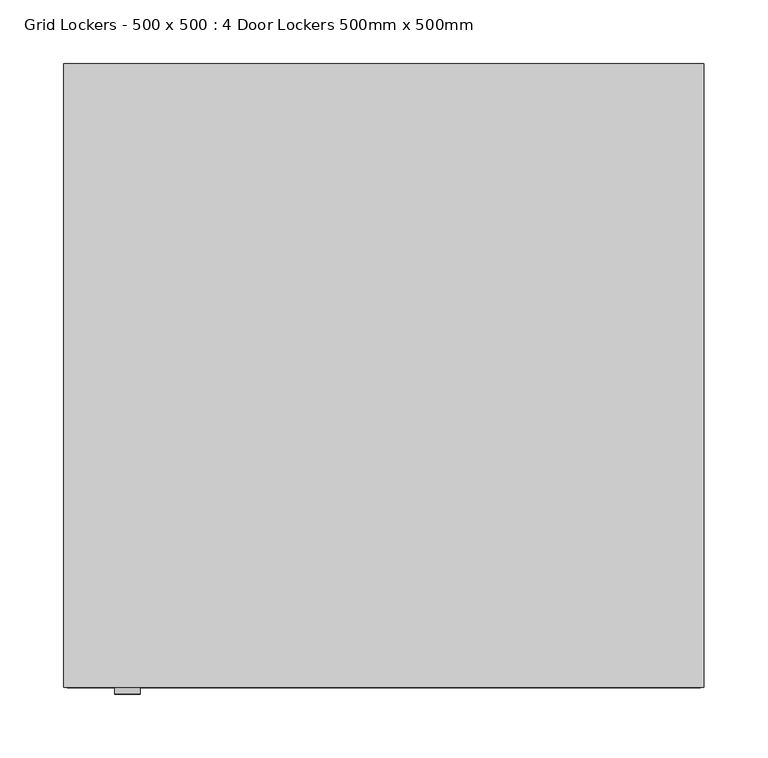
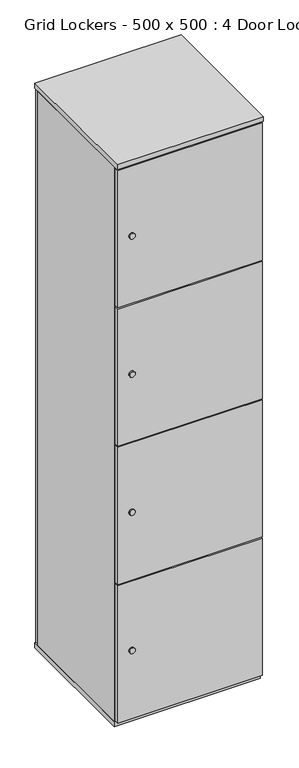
"""IFC4 building model written with IfcOpenShell, lengths in millimetres: furniture geometry, Grid Lockers - 500 x 500 : 4 Door Lockers 500mm x 500mm."""

from ifc_helpers import new_model, si_unit, point, frame, frame_2d, origin, origin_with_axes, place, context, project, spatial, polyline, circle_curve, trimmed, segment, composite_curve, outline, extrude, source, transform, mapped, element, save


def grid_lockers_500_x_500_4_door_lockers_500mm_x_500mm_19c436bb(model_context):
    return source(origin(), model_context, "Body", "SweptSolid", [
        extrude(outline(composite_curve([segment(trimmed(circle_curve(frame_2d((1790.8469219, 50.0)), 10.0), [point((1790.8469219, 40.0))], [point((1790.8469219, 60.0))], False, "CARTESIAN"), True, "CONTINUOUS"), segment(trimmed(circle_curve(frame_2d((1790.8469219, 50.0)), 10.0), [point((1790.8469219, 60.0))], [point((1790.8469219, 40.0))], False, "CARTESIAN"), True, "CONTINUOUS")], self_intersect=False)), frame((0.0, -495.0, 0.0), z_axis=(0.0, 1.0, 0.0), x_axis=(0.0, 0.0, 1.0)), (0.0, 0.0, 1.0), 5.0),
        extrude(outline(composite_curve([segment(trimmed(circle_curve(frame_2d((1287.897948, 50.0)), 10.0), [point((1287.897948, 40.0))], [point((1287.897948, 60.0))], False, "CARTESIAN"), True, "CONTINUOUS"), segment(trimmed(circle_curve(frame_2d((1287.897948, 50.0)), 10.0), [point((1287.897948, 60.0))], [point((1287.897948, 40.0))], False, "CARTESIAN"), True, "CONTINUOUS")], self_intersect=False)), frame((0.0, -495.0, 0.0), z_axis=(0.0, 1.0, 0.0), x_axis=(0.0, 0.0, 1.0)), (0.0, 0.0, 1.0), 5.0),
        extrude(outline(polyline([(499.9888449, -490.0), (2.9888449, -490.0), (2.9888449, -472.0), (499.9888449, -472.0), (499.9888449, -490.0)])), frame((0.0, 0.0, 1543.2769672), z_axis=(0.0, 0.0, 1.0), x_axis=(1.0, 0.0, 0.0)), (0.0, 0.0, 1.0), 500.0),
        extrude(outline(polyline([(499.9925633, -490.0), (2.9925633, -490.0), (2.9925633, -472.0), (499.9925633, -472.0), (499.9925633, -490.0)])), frame((0.0, 0.0, 1039.5179781), z_axis=(0.0, 0.0, 1.0), x_axis=(1.0, 0.0, 0.0)), (0.0, 0.0, 1.0), 500.0),
        extrude(outline(composite_curve([segment(trimmed(circle_curve(frame_2d((784.948974, 50.0)), 10.0), [point((784.948974, 40.0))], [point((784.948974, 60.0))], False, "CARTESIAN"), True, "CONTINUOUS"), segment(trimmed(circle_curve(frame_2d((784.948974, 50.0)), 10.0), [point((784.948974, 60.0))], [point((784.948974, 40.0))], False, "CARTESIAN"), True, "CONTINUOUS")], self_intersect=False)), frame((0.0, -495.0, 0.0), z_axis=(0.0, 1.0, 0.0), x_axis=(0.0, 0.0, 1.0)), (0.0, 0.0, 1.0), 5.0),
        extrude(outline(composite_curve([segment(trimmed(circle_curve(frame_2d((282.0, 50.0)), 10.0), [point((282.0, 40.0))], [point((282.0, 60.0))], False, "CARTESIAN"), True, "CONTINUOUS"), segment(trimmed(circle_curve(frame_2d((282.0, 50.0)), 10.0), [point((282.0, 60.0))], [point((282.0, 40.0))], False, "CARTESIAN"), True, "CONTINUOUS")], self_intersect=False)), frame((0.0, -495.0, 0.0), z_axis=(0.0, 1.0, 0.0), x_axis=(0.0, 0.0, 1.0)), (0.0, 0.0, 1.0), 5.0),
        extrude(outline(polyline([(499.9962816, -490.0), (2.9962816, -490.0), (2.9962816, -472.0), (499.9962816, -472.0), (499.9962816, -490.0)])), frame((0.0, 0.0, 535.7589891), z_axis=(0.0, 0.0, 1.0), x_axis=(1.0, 0.0, 0.0)), (0.0, 0.0, 1.0), 500.0),
        extrude(outline(composite_curve([segment(trimmed(circle_curve(frame_2d((450.0, -50.0)), 15.0), [point((435.0, -50.0))], [point((465.0, -50.0))], False, "CARTESIAN"), True, "CONTINUOUS"), segment(trimmed(circle_curve(frame_2d((450.0, -50.0)), 15.0), [point((465.0, -50.0))], [point((435.0, -50.0))], False, "CARTESIAN"), True, "CONTINUOUS")], self_intersect=False)), origin_with_axes(), (0.0, 0.0, 1.0), 10.0),
        extrude(outline(composite_curve([segment(trimmed(circle_curve(frame_2d((50.0, -50.0)), 15.0), [point((35.0, -50.0))], [point((65.0, -50.0))], False, "CARTESIAN"), True, "CONTINUOUS"), segment(trimmed(circle_curve(frame_2d((50.0, -50.0)), 15.0), [point((65.0, -50.0))], [point((35.0, -50.0))], False, "CARTESIAN"), True, "CONTINUOUS")], self_intersect=False)), origin_with_axes(), (0.0, 0.0, 1.0), 10.0),
        extrude(outline(composite_curve([segment(trimmed(circle_curve(frame_2d((50.0, -440.0)), 15.0), [point((35.0, -440.0))], [point((65.0, -440.0))], False, "CARTESIAN"), True, "CONTINUOUS"), segment(trimmed(circle_curve(frame_2d((50.0, -440.0)), 15.0), [point((65.0, -440.0))], [point((35.0, -440.0))], False, "CARTESIAN"), True, "CONTINUOUS")], self_intersect=False)), origin_with_axes(), (0.0, 0.0, 1.0), 10.0),
        extrude(outline(composite_curve([segment(trimmed(circle_curve(frame_2d((450.0, -440.0)), 15.0), [point((435.0, -440.0))], [point((465.0, -440.0))], False, "CARTESIAN"), True, "CONTINUOUS"), segment(trimmed(circle_curve(frame_2d((450.0, -440.0)), 15.0), [point((465.0, -440.0))], [point((435.0, -440.0))], False, "CARTESIAN"), True, "CONTINUOUS")], self_intersect=False)), origin_with_axes(), (0.0, 0.0, 1.0), 10.0),
        extrude(outline(polyline([(502.9888449, -490.0), (0.0, -490.0), (0.0, 0.0), (502.9888449, 0.0), (502.9888449, -490.0)])), frame((0.0, 0.0, 2047.0), z_axis=(0.0, 0.0, 1.0), x_axis=(1.0, 0.0, 0.0)), (0.0, 0.0, 1.0), 18.0),
        extrude(outline(polyline([(502.9888449, -472.0), (0.0, -472.0), (0.0, 0.0), (502.9888449, 0.0), (502.9888449, -472.0)])), frame((0.0, 0.0, 10.0), z_axis=(0.0, 0.0, 1.0), x_axis=(1.0, 0.0, 0.0)), (0.0, 0.0, 1.0), 18.0),
        extrude(outline(polyline([(500.0, -490.0), (3.0, -490.0), (3.0, -472.0), (500.0, -472.0), (500.0, -490.0)])), frame((0.0, 0.0, 32.0), z_axis=(0.0, 0.0, 1.0), x_axis=(1.0, 0.0, 0.0)), (0.0, 0.0, 1.0), 500.0),
        extrude(outline(polyline([(502.9888449, -18.0), (502.9888449, -472.0), (0.0, -472.0), (0.0, -18.0), (502.9888449, -18.0)])), frame((0.0, 0.0, 28.0), z_axis=(0.0, 0.0, 1.0), x_axis=(1.0, 0.0, 0.0)), (0.0, 0.0, 1.0), 2019.0),
        extrude(outline(polyline([(497.0, 0.0), (497.0, -18.0), (3.0, -18.0), (3.0, 0.0), (497.0, 0.0)])), frame((0.0, 0.0, 32.0), z_axis=(0.0, 0.0, 1.0), x_axis=(1.0, 0.0, 0.0)), (0.0, 0.0, 1.0), 2015.0),
    ])


if __name__ == "__main__":
    model = new_model("IFC4")
    model_context = context("Model", 3, world=origin())
    ifc_project = project(units=[si_unit("LENGTHUNIT", "METRE", prefix="MILLI")], contexts=[model_context])
    site = spatial("IfcSite", under=ifc_project)
    building = spatial("IfcBuilding", under=site)
    placement = place(None, origin())
    grid_lockers_500_x_500_4_door_lockers_500mm_x_500mm_shape = grid_lockers_500_x_500_4_door_lockers_500mm_x_500mm_19c436bb(model_context)
    element("IfcFurniture", 1, ObjectType="Grid Lockers - 500 x 500 : 4 Door Lockers 500mm x 500mm", at=placement, inside=building, context=model_context, shape_type="MappedRepresentation", body=[
        mapped(grid_lockers_500_x_500_4_door_lockers_500mm_x_500mm_shape, transform((0.0, 0.0, 0.0), x_axis=(1.0, 0.0, 0.0), y_axis=(0.0, 1.0, 0.0), z_axis=(0.0, 0.0, 1.0))),
    ])
    save(model, "model.ifc")
